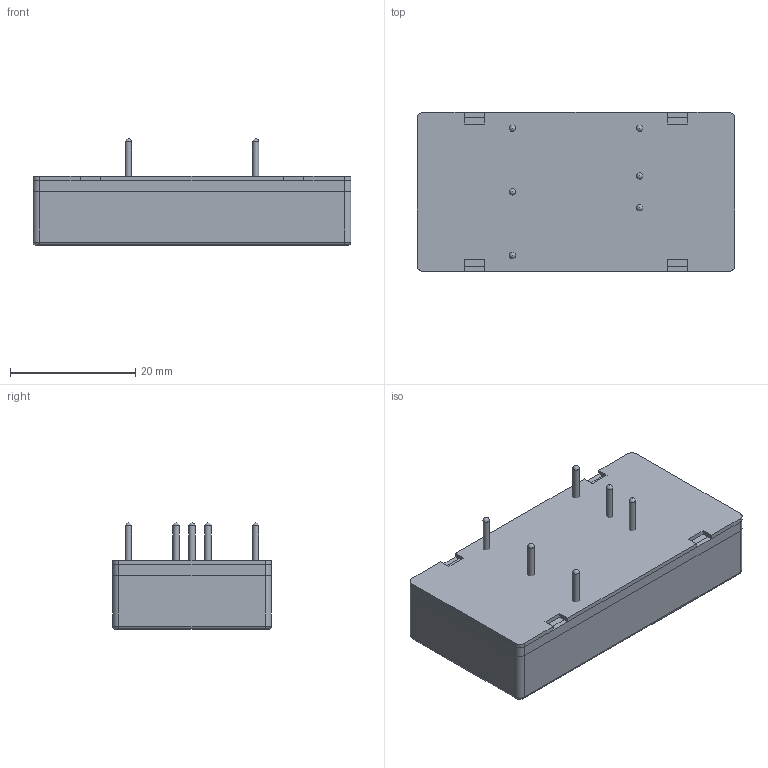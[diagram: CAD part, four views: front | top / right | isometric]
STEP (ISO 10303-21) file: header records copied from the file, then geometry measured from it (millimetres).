
FILE_DESCRIPTION(/* description */ (''),/* implementation_level */ '2;1');
FILE_NAME(/* name */ 'C:\Users\Calliope\Desktop\THR 20WI-Alternative Pinning.stp',/* time_stamp */ '2021-08-04T16:40:07+08:00',/* author */ ('Calliope'),/* organization */ (''),/* preprocessor_version */ 'ST-DEVELOPER v16.1',/* originating_system */ 'Autodesk Inventor 2016',/* authorisation */ '');
FILE_SCHEMA (('AUTOMOTIVE_DESIGN { 1 0 10303 214 3 1 1 }'));
Length unit declared in the file: millimetre
Products named in the file (1): THR 20WI-Alternative Pinning
Bounding box: 50.8 x 25.4 x 17 mm (x, y, z)
Surface area: 6044.3 mm2 (no closed solid volume)
Topology: 0 solids, 7 shells, 67 faces, 206 edges, 114 vertices
Faces by surface type: plane 35, cylinder 22, sphere 6, bspline 4
Full cylindrical faces by diameter (mm): 1 x6
Entity records: 2191 total; most frequent: CARTESIAN_POINT 396, DIRECTION 364, ORIENTED_EDGE 306, EDGE_CURVE 188, LINE 140, VECTOR 140, AXIS2_PLACEMENT_3D 112, VERTEX_POINT 108
